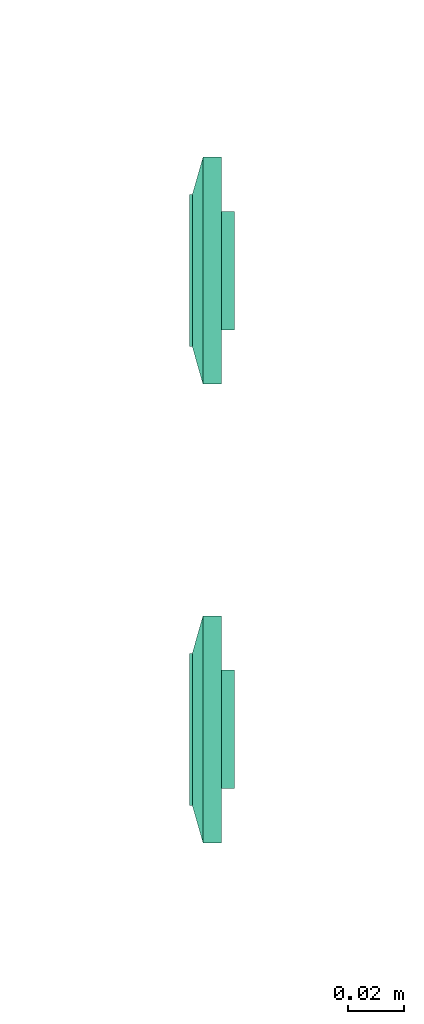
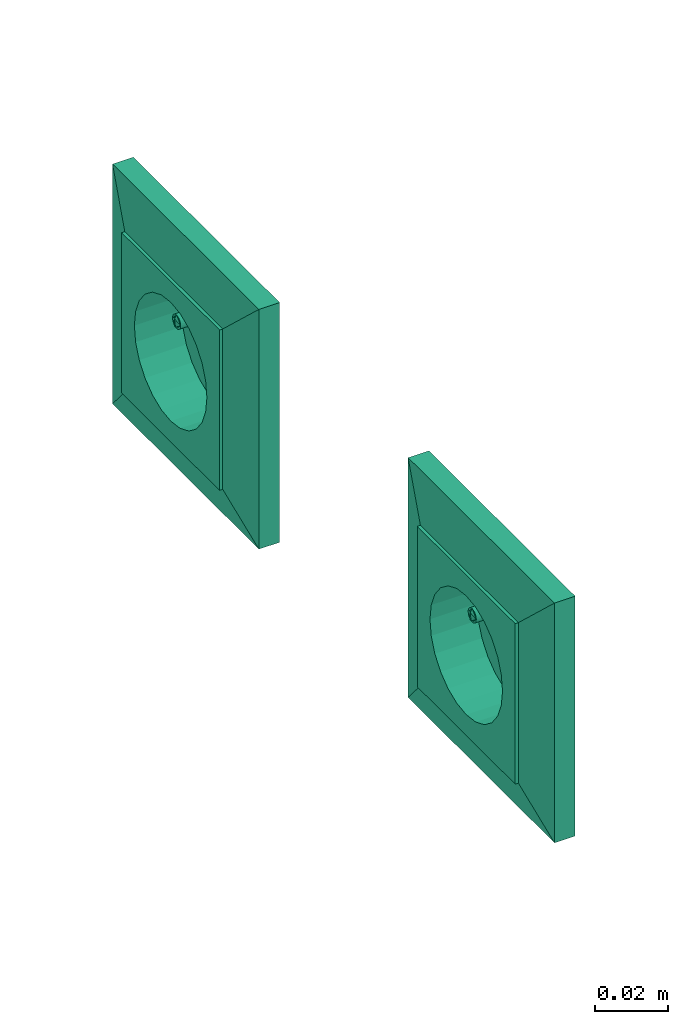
# One storey, part 38 of 146: 2 flow terminals.
"""IFC2X3 building model written with IfcOpenShell, lengths in metres."""

import ifcopenshell
import ifcopenshell.guid

model = None  # the IFC model being written
_history = None  # IfcOwnerHistory: only IFC2X3 demands one
_inside = {}  # id of a spatial element -> (the spatial element, [elements in it])
_under = {}  # id of a project, library or spatial element -> (it, [spatial elements below it])
_declared = {}  # id of a project -> (the project, [libraries it declares])
_typed = {}  # id of a type object -> (the type object, [elements of that type])
_made_of = {}  # id of a material, layer set ... -> (it, [elements and type objects made of it])


def new_model(schema):
    """Start an empty IFC model of exactly this schema.

    Asked for "IFC4X3", IfcOpenShell would pick the latest addendum, in which some entities
    have other attributes; the version numbers below select the first issue.
    IFC2X3 requires an IfcOwnerHistory on every rooted entity: one is made here for all.
    """
    global model, _history
    if schema == "IFC4X3":
        model = ifcopenshell.file(schema_version=(4, 3, 0, 0))
    else:
        model = ifcopenshell.file(schema=schema)
    _inside.clear()
    _under.clear()
    _declared.clear()
    _typed.clear()
    _made_of.clear()
    _history = None
    if model.schema == "IFC2X3":
        org = make("IfcOrganization", Name="unknown")
        user = make(
            "IfcPersonAndOrganization",
            ThePerson=make("IfcPerson", FamilyName="unknown"),
            TheOrganization=org,
        )
        app = make(
            "IfcApplication",
            ApplicationDeveloper=org,
            Version="unknown",
            ApplicationFullName="unknown",
            ApplicationIdentifier="unknown",
        )
        _history = make(
            "IfcOwnerHistory",
            OwningUser=user,
            OwningApplication=app,
            ChangeAction="ADDED",
            CreationDate=0,
        )
    return model


def make(cls, **values):
    """One entity of the class cls with the attributes given. An attribute that is None is left unset."""
    return model.create_entity(
        cls, **{name: value for name, value in values.items() if value is not None}
    )


def entity(cls, *values):
    """Any entity or typed value of the class cls, its attributes in the order of the schema. None: left unset."""
    e = model.create_entity(cls)
    for i, value in enumerate(values):
        if value is not None:
            e[i] = value
    return e


def rooted(cls, **values):
    """An entity with a GlobalId (a new one), such as an element, a storey or a relation."""
    return make(cls, GlobalId=ifcopenshell.guid.new(), OwnerHistory=_history, **values)


def si_unit(unit_type, name, prefix=None):
    """IfcSIUnit, for example si_unit("LENGTHUNIT", "METRE", prefix="MILLI")."""
    return make("IfcSIUnit", UnitType=unit_type, Prefix=prefix, Name=name)


def converted_unit(unit_type, name, factor, base, dimensions=None, offset=None):
    """IfcConversionBasedUnit, such as the inch: factor (a typed value) times the base unit."""
    return make(
        "IfcConversionBasedUnit"
        if offset is None
        else "IfcConversionBasedUnitWithOffset",
        ConversionOffset=offset,
        Dimensions=None
        if dimensions is None
        else entity("IfcDimensionalExponents", *dimensions),
        UnitType=unit_type,
        Name=name,
        ConversionFactor=make(
            "IfcMeasureWithUnit", ValueComponent=factor, UnitComponent=base
        ),
    )


def derived_unit(unit_type, elements):
    """IfcDerivedUnit: a product of units, each with its exponent."""
    return make(
        "IfcDerivedUnit",
        Elements=[
            make("IfcDerivedUnitElement", Unit=unit, Exponent=power)
            for unit, power in elements
        ],
        UnitType=unit_type,
    )


def assignment(units):
    """IfcUnitAssignment: the units of a project."""
    return None if units is None else make("IfcUnitAssignment", Units=units)


def point(xyz):
    """IfcCartesianPoint."""
    return None if xyz is None else make("IfcCartesianPoint", Coordinates=xyz)


def direction(xyz):
    """IfcDirection."""
    return None if xyz is None else make("IfcDirection", DirectionRatios=xyz)


def frame(location, z_axis=None, x_axis=None):
    """IfcAxis2Placement3D, a coordinate frame: its origin and axes. An axis left out is left unset."""
    return make(
        "IfcAxis2Placement3D",
        Location=point(location),
        Axis=direction(z_axis),
        RefDirection=direction(x_axis),
    )


def origin():
    """The frame at (0, 0, 0) with its axes left unset."""
    return frame((0.0, 0.0, 0.0))


def place(relative_to, where):
    """IfcLocalPlacement: puts the frame where relative to a parent placement (None: the world)."""
    return make(
        "IfcLocalPlacement", PlacementRelTo=relative_to, RelativePlacement=where
    )


def context(
    kind, dimensions, precision=None, world=None, true_north=None, identifier=None
):
    """IfcGeometricRepresentationContext, for example the 3D "Model" context."""
    return make(
        "IfcGeometricRepresentationContext",
        ContextIdentifier=identifier,
        ContextType=kind,
        CoordinateSpaceDimension=dimensions,
        Precision=precision,
        WorldCoordinateSystem=world,
        TrueNorth=true_north,
    )


def subcontext(parent, identifier, kind, view, scale=None):
    """IfcGeometricRepresentationSubContext, for example "Body" below "Model"."""
    return make(
        "IfcGeometricRepresentationSubContext",
        ContextIdentifier=identifier,
        ContextType=kind,
        ParentContext=parent,
        TargetScale=scale,
        TargetView=view,
    )


def project(units=None, contexts=None):
    """IfcProject with its units and contexts."""
    return rooted(
        "IfcProject",
        Name="project",
        RepresentationContexts=contexts,
        UnitsInContext=assignment(units),
    )


def spatial(cls, under=None, at=None, **own):
    """A site, building, storey or space (cls), placed at a placement, below another one or the project."""
    s = rooted(cls, ObjectPlacement=at, **own)
    if under is not None:
        _under.setdefault(under.id(), (under, []))[1].append(s)
    return s


def faces_of(points, faces, orient=None, outer=None):
    """IfcFace entities. A face is a list of loops; a loop is a list of indices into points, from 0.

    orient and outer hold one flag for each loop. By default every Orientation is true, the
    first loop of a face is its IfcFaceOuterBound and the others are IfcFaceBound.
    """
    made = []
    for i, loops in enumerate(faces):
        bounds = []
        for j, loop in enumerate(loops):
            is_outer = j == 0 if outer is None else outer[i][j]
            bounds.append(
                make(
                    "IfcFaceOuterBound" if is_outer else "IfcFaceBound",
                    Bound=make("IfcPolyLoop", Polygon=[points[k] for k in loop]),
                    Orientation=True if orient is None else orient[i][j],
                )
            )
        made.append(make("IfcFace", Bounds=bounds))
    return made


def face_set(faces, orient=None, outer=None):
    """The faces of one IfcConnectedFaceSet. surface_model builds it on its shared points."""
    return ("IfcConnectedFaceSet", faces, orient, outer)


def surface_model(cls, points, shells):
    """IfcFaceBasedSurfaceModel or IfcShellBasedSurfaceModel (cls): surfaces that need not close."""
    shared = [point(p) for p in points]
    made = [make(c, CfsFaces=faces_of(shared, fs, o, b)) for c, fs, o, b in shells]
    if cls == "IfcFaceBasedSurfaceModel":
        return make(cls, FbsmFaces=made)
    return make(cls, SbsmBoundary=made)


def shape(context_of_items, identifier, shape_type, items):
    """IfcShapeRepresentation: the items that make up one representation, for example the "Body"."""
    return make(
        "IfcShapeRepresentation",
        ContextOfItems=context_of_items,
        RepresentationIdentifier=identifier,
        RepresentationType=shape_type,
        Items=items,
    )


def source(mapping_origin, context_of_items, identifier, shape_type, items):
    """IfcRepresentationMap: a shape defined once, which mapped items show again and again."""
    return make(
        "IfcRepresentationMap",
        MappingOrigin=mapping_origin,
        MappedRepresentation=shape(context_of_items, identifier, shape_type, items),
    )


def transform(
    local_origin,
    x_axis=None,
    y_axis=None,
    z_axis=None,
    scale=None,
    scale2=None,
    scale3=None,
    uniform=True,
):
    """IfcCartesianTransformationOperator3D, or its non-uniform kind. x_axis, y_axis, z_axis: its Axis1, 2, 3."""
    if uniform:
        return make(
            "IfcCartesianTransformationOperator3D",
            Axis1=direction(x_axis),
            Axis2=direction(y_axis),
            LocalOrigin=point(local_origin),
            Scale=scale,
            Axis3=direction(z_axis),
        )
    return make(
        "IfcCartesianTransformationOperator3DnonUniform",
        Axis1=direction(x_axis),
        Axis2=direction(y_axis),
        LocalOrigin=point(local_origin),
        Scale=scale,
        Axis3=direction(z_axis),
        Scale2=scale2,
        Scale3=scale3,
    )


def mapped(mapping_source, mapping_target):
    """IfcMappedItem: shows the shape of a source again, moved by a transform."""
    return make(
        "IfcMappedItem", MappingSource=mapping_source, MappingTarget=mapping_target
    )


def made_of(thing, what):
    """Note that an element or type object is made of a material, layer set ...; save() writes the relation."""
    if what is not None:
        _made_of.setdefault(what.id(), (what, []))[1].append(thing)
    return thing


def type_object(cls, material=None, **own):
    """A type object (cls), such as IfcWallType, which elements share."""
    return made_of(rooted(cls, **own), material)


def type_shapes(of_type, sources):
    """Give a type object the sources (RepresentationMaps) that its elements show as mapped items."""
    of_type.RepresentationMaps = sources


def element(
    cls,
    number,
    at=None,
    inside=None,
    cuts=None,
    type_object=None,
    material=None,
    context=None,
    identifier="Body",
    shape_type=None,
    held_by="IfcProductDefinitionShape",
    body=None,
    shapes=None,
    **own,
):
    """One element of the class cls, such as IfcWall. Its Tag is "e" and its number.

    at: its placement. inside: the storey or other place that contains it. cuts: it is an
    opening in that element (IfcRelVoidsElement). A single representation is given by context,
    identifier, shape_type and body (its items); several are given by shapes. held_by: the class
    of the entity that holds the representations. save() writes the other relations.
    """
    e = rooted(cls, Tag="e%d" % number, ObjectPlacement=at, **own)
    if body is not None:
        shapes = [shape(context, identifier, shape_type, body)]
    if shapes is not None:
        e.Representation = make(held_by, Representations=shapes)
    if inside is not None:
        _inside.setdefault(inside.id(), (inside, []))[1].append(e)
    if cuts is not None:
        rooted(
            "IfcRelVoidsElement", RelatingBuildingElement=cuts, RelatedOpeningElement=e
        )
    if type_object is not None:
        _typed.setdefault(type_object.id(), (type_object, []))[1].append(e)
    return made_of(e, material)


def aggregate(whole, parts):
    """IfcRelAggregates: a whole, such as a stair, and the parts it consists of."""
    return rooted("IfcRelAggregates", RelatingObject=whole, RelatedObjects=parts)


def save(model, path):
    """Write the relations noted so far, then the file.

    IfcRelAggregates (storeys below a building ...), IfcRelContainedInSpatialStructure (elements
    in a storey), IfcRelDefinesByType, IfcRelAssociatesMaterial and IfcRelDeclares: one each for
    every whole, place, type object, material and project.
    """
    for whole, parts in _under.values():
        aggregate(whole, parts)
    for where, things in _inside.values():
        rooted(
            "IfcRelContainedInSpatialStructure",
            RelatedElements=things,
            RelatingStructure=where,
        )
    for kind, things in _typed.values():
        rooted("IfcRelDefinesByType", RelatedObjects=things, RelatingType=kind)
    for what, things in _made_of.values():
        rooted("IfcRelAssociatesMaterial", RelatedObjects=things, RelatingMaterial=what)
    for by, libraries in _declared.values():
        rooted("IfcRelDeclares", RelatingContext=by, RelatedDefinitions=libraries)
    model.write(path)


model = new_model("IFC2X3")

# Units and contexts
model_context = context("Model", 3, precision=1e-05, world=origin(), true_north=direction((6.12303176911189e-17, 1.0)))
body_context = subcontext(model_context, "Body", "Model", "MODEL_VIEW")
ifc_project = project(units=[si_unit("LENGTHUNIT", "METRE"), si_unit("AREAUNIT", "SQUARE_METRE"), si_unit("VOLUMEUNIT", "CUBIC_METRE"), converted_unit("PLANEANGLEUNIT", "DEGREE", entity("IfcRatioMeasure", 0.0174532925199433), si_unit("PLANEANGLEUNIT", "RADIAN"), dimensions=[0, 0, 0, 0, 0, 0, 0]), si_unit("MASSUNIT", "GRAM", prefix="KILO"), derived_unit("MASSDENSITYUNIT", [(si_unit("MASSUNIT", "GRAM", prefix="KILO"), 1), (si_unit("LENGTHUNIT", "METRE"), -3)]), si_unit("TIMEUNIT", "SECOND"), si_unit("FREQUENCYUNIT", "HERTZ"), si_unit("THERMODYNAMICTEMPERATUREUNIT", "DEGREE_CELSIUS"), derived_unit("THERMALTRANSMITTANCEUNIT", [(si_unit("MASSUNIT", "GRAM", prefix="KILO"), 1), (si_unit("THERMODYNAMICTEMPERATUREUNIT", "KELVIN"), -1), (si_unit("TIMEUNIT", "SECOND"), -3)]), derived_unit("VOLUMETRICFLOWRATEUNIT", [(si_unit("LENGTHUNIT", "METRE"), 3), (si_unit("TIMEUNIT", "SECOND"), -1)]), si_unit("ELECTRICCURRENTUNIT", "AMPERE"), si_unit("ELECTRICVOLTAGEUNIT", "VOLT"), si_unit("POWERUNIT", "WATT"), si_unit("FORCEUNIT", "NEWTON"), si_unit("ILLUMINANCEUNIT", "LUX"), si_unit("LUMINOUSFLUXUNIT", "LUMEN"), si_unit("LUMINOUSINTENSITYUNIT", "CANDELA"), derived_unit("USERDEFINED", [(si_unit("MASSUNIT", "GRAM", prefix="KILO"), -1), (si_unit("LENGTHUNIT", "METRE"), -2), (si_unit("TIMEUNIT", "SECOND"), 3), (si_unit("LUMINOUSFLUXUNIT", "LUMEN"), 1)]), derived_unit("LINEARVELOCITYUNIT", [(si_unit("LENGTHUNIT", "METRE"), 1), (si_unit("TIMEUNIT", "SECOND"), -1)]), si_unit("PRESSUREUNIT", "PASCAL"), derived_unit("USERDEFINED", [(si_unit("LENGTHUNIT", "METRE"), -2), (si_unit("MASSUNIT", "GRAM", prefix="KILO"), 1), (si_unit("TIMEUNIT", "SECOND"), -2)])], contexts=[model_context])

# Site, building, storey
site_placement = place(None, origin())
site = spatial("IfcSite", under=ifc_project, at=site_placement, Name="Default", CompositionType="ELEMENT")
building_placement = place(site_placement, origin())
building = spatial("IfcBuilding", under=site, at=building_placement, CompositionType="ELEMENT")
storey_placement = place(building_placement, origin())
storey = spatial("IfcBuildingStorey", under=building, at=storey_placement, Name="S01", CompositionType="ELEMENT", Elevation=0.0)

# Flow terminals
light_fixture_type = type_object("IfcLightFixtureType", Name="PC IP20", PredefinedType="NOTDEFINED")
shared_shape = source(origin(), body_context, "Body", "SurfaceModel", [
    surface_model("IfcFaceBasedSurfaceModel", [(-0.00225000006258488, 0.0127499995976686, 0.00949633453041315), (0.0, 0.0104999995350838, 0.00949633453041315), (0.0, 0.0115376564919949, 0.0101656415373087), (0.0, 0.0139623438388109, 0.0101656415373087), (0.0, 0.0144589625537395, 0.00984531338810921), (0.0, 0.0121178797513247, 0.0102778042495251), (0.0, 0.0133821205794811, 0.0102778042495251), (0.0, 0.0127499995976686, 0.010399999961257), (0.0, 0.0149999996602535, 0.00949633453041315), (0.00225000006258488, 0.0127499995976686, 0.00949633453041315), (0.0, 0.0110410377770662, 0.00984531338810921), (0.0, 0.0127499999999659, 0.00949633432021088), (0.00225000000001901, 0.0127499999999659, 0.00949633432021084), (0.00217333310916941, 0.0121676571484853, 0.00949633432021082), (0.00194855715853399, 0.0116249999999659, 0.00949633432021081), (0.00159099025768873, 0.0111590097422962, 0.00949633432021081), (0.001125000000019, 0.010801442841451, 0.00949633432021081), (0.00058234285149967, 0.0105766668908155, 0.00949633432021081), (0.0, 0.0104999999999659, 0.00949633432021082), (-0.000582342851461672, 0.0105766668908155, 0.00949633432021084), (-0.001124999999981, 0.010801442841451, 0.00949633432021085), (-0.00159099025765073, 0.0111590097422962, 0.00949633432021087), (-0.00194855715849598, 0.011624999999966, 0.00949633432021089), (-0.0021733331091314, 0.0121676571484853, 0.00949633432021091), (-0.00224999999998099, 0.012749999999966, 0.00949633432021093), (-0.00217333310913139, 0.0133323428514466, 0.00949633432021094), (-0.00194855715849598, 0.013874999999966, 0.00949633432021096), (-0.00159099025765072, 0.0143409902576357, 0.00949633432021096), (-0.00112499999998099, 0.0146985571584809, 0.00949633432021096), (-0.00058234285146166, 0.0149233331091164, 0.00949633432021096), (0.0, 0.0149999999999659, 0.00949633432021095), (0.000582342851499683, 0.0149233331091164, 0.00949633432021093), (0.00112500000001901, 0.0146985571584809, 0.00949633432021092), (0.00159099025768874, 0.0143409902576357, 0.00949633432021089), (0.001948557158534, 0.0138749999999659, 0.00949633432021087), (0.00217333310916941, 0.0133323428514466, 0.00949633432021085), (0.00225000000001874, 0.0127499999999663, -0.00360000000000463), (0.00217333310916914, 0.0121676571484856, -0.00360000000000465), (0.00194855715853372, 0.0116249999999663, -0.00360000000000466), (0.00159099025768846, 0.0111590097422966, -0.00360000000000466), (0.00112500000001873, 0.0108014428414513, -0.00360000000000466), (0.000582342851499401, 0.0105766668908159, -0.00360000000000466), (0.0, 0.0104999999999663, -0.00360000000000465), (-0.000582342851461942, 0.0105766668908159, -0.00360000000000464), (-0.00112499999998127, 0.0108014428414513, -0.00360000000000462), (-0.001590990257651, 0.0111590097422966, -0.0036000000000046), (-0.00194855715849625, 0.0116249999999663, -0.00360000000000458), (-0.00217333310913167, 0.0121676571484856, -0.00360000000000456), (-0.00224999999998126, 0.0127499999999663, -0.00360000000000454), (-0.00217333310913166, 0.013332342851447, -0.00360000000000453), (-0.00194855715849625, 0.0138749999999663, -0.00360000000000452), (-0.00159099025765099, 0.014340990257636, -0.00360000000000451), (-0.00112499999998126, 0.0146985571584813, -0.00360000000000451), (-0.000582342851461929, 0.0149233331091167, -0.00360000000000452), (0.0, 0.0149999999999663, -0.00360000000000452), (0.000582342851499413, 0.0149233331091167, -0.00360000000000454), (0.00112500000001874, 0.0146985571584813, -0.00360000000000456), (0.00159099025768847, 0.014340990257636, -0.00360000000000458), (0.00194855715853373, 0.0138749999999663, -0.0036000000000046), (0.00217333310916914, 0.013332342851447, -0.00360000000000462), (0.0270000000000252, 0.026999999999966, 0.0113999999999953), (-0.0269999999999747, 0.026999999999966, 0.0113999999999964), (-0.0269999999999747, -0.0270000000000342, 0.0113999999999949), (0.0270000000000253, -0.0270000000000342, 0.0113999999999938), (-0.0199999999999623, 0.0, 0.0113999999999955), (-0.0193185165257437, -0.00517638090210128, 0.0113999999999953), (-0.0173205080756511, -0.0100000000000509, 0.0113999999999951), (-0.0141421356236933, -0.0141421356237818, 0.011399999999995), (-0.00999999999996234, -0.0173205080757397, 0.0113999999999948), (-0.00517638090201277, -0.0193185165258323, 0.0113999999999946), (0.0, -0.0200000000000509, 0.0113999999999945), (0.00517638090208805, -0.0193185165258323, 0.0113999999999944), (0.0100000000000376, -0.0173205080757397, 0.0113999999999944), (0.0141421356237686, -0.0141421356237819, 0.0113999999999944), (0.0173205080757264, -0.010000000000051, 0.0113999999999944), (0.0193185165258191, -0.00517638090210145, 0.0113999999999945), (0.0200000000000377, 0.0, 0.0113999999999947), (0.0193185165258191, 0.00517638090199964, 0.0113999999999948), (0.0173205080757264, 0.0099999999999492, 0.011399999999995), (0.0141421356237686, 0.0141421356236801, 0.0113999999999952), (0.0100000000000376, 0.0173205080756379, 0.0113999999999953), (0.00517638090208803, 0.0193185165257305, 0.0113999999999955), (0.0, 0.0199999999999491, 0.0113999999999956), (-0.00517638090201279, 0.0193185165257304, 0.0113999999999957), (-0.00999999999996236, 0.0173205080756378, 0.0113999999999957), (-0.0141421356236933, 0.01414213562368, 0.0113999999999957), (-0.0173205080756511, 0.00999999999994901, 0.0113999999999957), (-0.0193185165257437, 0.00517638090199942, 0.0113999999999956), (0.0270000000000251, 0.0269999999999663, 0.00199999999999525), (0.0270000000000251, -0.0270000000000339, 0.00199999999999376), (-0.0269999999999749, -0.0270000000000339, 0.00199999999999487), (-0.0269999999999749, 0.0269999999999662, 0.00199999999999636), (0.0210000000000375, 0.0, 0.00199999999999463), (0.0202844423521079, -0.00543519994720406, 0.00199999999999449), (0.0181865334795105, -0.0105000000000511, 0.0019999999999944), (0.0148492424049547, -0.0148492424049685, 0.00199999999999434), (0.0105000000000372, -0.0181865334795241, 0.00199999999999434), (0.0054351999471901, -0.0202844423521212, 0.00199999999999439), (0.0, -0.0210000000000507, 0.00199999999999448), (-0.00543519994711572, -0.020284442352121, 0.00199999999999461), (-0.0104999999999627, -0.0181865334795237, 0.00199999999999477), (-0.0148492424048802, -0.014849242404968, 0.00199999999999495), (-0.0181865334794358, -0.0105000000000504, 0.00199999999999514), (-0.020284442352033, -0.00543519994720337, 0.00199999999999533), (-0.0209999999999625, 0.0, 0.00199999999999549), (-0.0202844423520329, 0.0054351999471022, 0.00199999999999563), (-0.0181865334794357, 0.0104999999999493, 0.00199999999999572), (-0.01484924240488, 0.0148492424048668, 0.00199999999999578), (-0.0104999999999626, 0.0181865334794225, 0.00199999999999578), (-0.00543519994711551, 0.0202844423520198, 0.00199999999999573), (0.0, 0.0209999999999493, 0.00199999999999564), (0.00543519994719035, 0.0202844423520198, 0.00199999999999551), (0.0105000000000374, 0.0181865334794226, 0.00199999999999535), (0.0148492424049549, 0.0148492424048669, 0.00199999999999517), (0.0181865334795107, 0.0104999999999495, 0.00199999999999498), (0.0202844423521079, 0.00543519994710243, 0.00199999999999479), (0.0200000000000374, 0.0, -0.00360000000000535), (0.0193185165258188, -0.00517638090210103, -0.00360000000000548), (0.0173205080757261, -0.0100000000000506, -0.00360000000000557), (0.0141421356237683, -0.0141421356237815, -0.00360000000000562), (0.0100000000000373, -0.0173205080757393, -0.00360000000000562), (0.00517638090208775, -0.0193185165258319, -0.00360000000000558), (0.0, -0.0200000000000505, -0.00360000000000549), (-0.00517638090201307, -0.0193185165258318, -0.00360000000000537), (-0.00999999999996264, -0.0173205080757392, -0.00360000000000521), (-0.0141421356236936, -0.0141421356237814, -0.00360000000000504), (-0.0173205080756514, -0.0100000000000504, -0.00360000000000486), (-0.019318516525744, -0.00517638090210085, -0.00360000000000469), (-0.0199999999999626, 0.0, -0.00360000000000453), (-0.0193185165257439, 0.00517638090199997, -0.0036000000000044), (-0.0173205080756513, 0.00999999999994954, -0.00360000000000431), (-0.0141421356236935, 0.0141421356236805, -0.00360000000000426), (-0.00999999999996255, 0.0173205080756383, -0.00360000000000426), (-0.00517638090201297, 0.0193185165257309, -0.0036000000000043), (0.0, 0.0199999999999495, -0.00360000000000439), (0.00517638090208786, 0.0193185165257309, -0.00360000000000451), (0.0100000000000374, 0.0173205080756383, -0.00360000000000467), (0.0141421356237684, 0.0141421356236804, -0.00360000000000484), (0.0173205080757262, 0.0099999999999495, -0.00360000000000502), (0.0193185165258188, 0.00517638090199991, -0.00360000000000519), (-0.0123499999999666, 0.0, -0.00360000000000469), (-0.0122562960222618, -0.000711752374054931, -0.00360000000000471), (-0.0119815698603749, -0.00137500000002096, -0.00360000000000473), (-0.0115445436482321, -0.00194454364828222, -0.00360000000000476), (-0.0109749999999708, -0.00238156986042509, -0.00360000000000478), (-0.0103117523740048, -0.00265629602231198, -0.0036000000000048), (-0.00959999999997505, -0.00275000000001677, -0.00360000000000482), (-0.0088882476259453, -0.00265629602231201, -0.00360000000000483), (-0.00822499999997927, -0.00238156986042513, -0.00360000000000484), (-0.00765545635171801, -0.00194454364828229, -0.00360000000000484), (-0.00721843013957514, -0.00137500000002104, -0.00360000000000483), (-0.00694370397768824, -0.000711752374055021, -0.00360000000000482), (-0.00684999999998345, 0.0, -0.0036000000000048), (-0.00694370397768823, 0.000711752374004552, -0.00360000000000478), (-0.00721843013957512, 0.00137499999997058, -0.00360000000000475), (-0.00765545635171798, 0.00194454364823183, -0.00360000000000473), (-0.00822499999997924, 0.00238156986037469, -0.0036000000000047), (-0.00888824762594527, 0.00265629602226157, -0.00360000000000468), (-0.00959999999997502, 0.00274999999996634, -0.00360000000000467), (-0.0103117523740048, 0.00265629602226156, -0.00360000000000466), (-0.0109749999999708, 0.00238156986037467, -0.00360000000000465), (-0.011544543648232, 0.00194454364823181, -0.00360000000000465), (-0.0119815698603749, 0.00137499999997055, -0.00360000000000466), (-0.0122562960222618, 0.000711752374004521, -0.00360000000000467), (0.00685000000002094, 0.0, -0.00360000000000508), (0.0069437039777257, -0.00071175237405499, -0.0036000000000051), (0.00721843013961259, -0.00137500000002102, -0.00360000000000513), (0.00765545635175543, -0.00194454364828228, -0.00360000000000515), (0.00822500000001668, -0.00238156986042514, -0.00360000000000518), (0.00888824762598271, -0.00265629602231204, -0.0036000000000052), (0.00960000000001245, -0.00275000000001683, -0.00360000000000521), (0.0103117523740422, -0.00265629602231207, -0.00360000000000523), (0.0109750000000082, -0.00238156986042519, -0.00360000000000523), (0.0115445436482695, -0.00194454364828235, -0.00360000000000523), (0.0119815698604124, -0.0013750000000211, -0.00360000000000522), (0.0122562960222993, -0.00071175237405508, -0.00360000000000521), (0.012350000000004, 0.0, -0.00360000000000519), (0.0122562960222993, 0.000711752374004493, -0.00360000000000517), (0.0119815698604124, 0.00137499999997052, -0.00360000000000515), (0.0115445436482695, 0.00194454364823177, -0.00360000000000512), (0.0109750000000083, 0.00238156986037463, -0.0036000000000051), (0.0103117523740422, 0.00265629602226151, -0.00360000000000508), (0.00960000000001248, 0.00274999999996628, -0.00360000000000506), (0.00888824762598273, 0.0026562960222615, -0.00360000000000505), (0.0082250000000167, 0.00238156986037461, -0.00360000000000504), (0.00765545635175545, 0.00194454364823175, -0.00360000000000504), (0.0072184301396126, 0.00137499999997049, -0.00360000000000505), (0.00694370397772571, 0.000711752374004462, -0.00360000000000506), (0.0210000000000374, 0.0, -0.00460000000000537), (0.0202844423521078, -0.00543519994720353, -0.00460000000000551), (0.0181865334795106, -0.0105000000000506, -0.0046000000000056), (0.0148492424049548, -0.0148492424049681, -0.00460000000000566), (0.0105000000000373, -0.0181865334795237, -0.00460000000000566), (0.00543519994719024, -0.0202844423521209, -0.00460000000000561), (0.0, -0.0210000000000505, -0.00460000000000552), (-0.00543519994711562, -0.0202844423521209, -0.00460000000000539), (-0.0104999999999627, -0.0181865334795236, -0.00460000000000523), (-0.0148492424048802, -0.0148492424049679, -0.00460000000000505), (-0.0181865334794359, -0.0105000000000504, -0.00460000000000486), (-0.0202844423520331, -0.00543519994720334, -0.00460000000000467), (-0.0209999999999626, 0.0, -0.00460000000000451), (-0.020284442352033, 0.00543519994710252, -0.00460000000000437), (-0.0181865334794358, 0.0104999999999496, -0.00460000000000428), (-0.0148492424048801, 0.0148492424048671, -0.00460000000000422), (-0.0104999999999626, 0.0181865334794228, -0.00460000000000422), (-0.00543519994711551, 0.02028444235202, -0.00460000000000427), (0.0, 0.0209999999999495, -0.00460000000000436), (0.00543519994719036, 0.02028444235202, -0.00460000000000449), (0.0105000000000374, 0.0181865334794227, -0.00460000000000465), (0.0148492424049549, 0.014849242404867, -0.00460000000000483), (0.0181865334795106, 0.0104999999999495, -0.00460000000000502), (0.0202844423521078, 0.00543519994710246, -0.00460000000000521), (-0.00684999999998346, 0.0, -0.0046000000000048), (-0.00694370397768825, 0.000711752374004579, -0.00460000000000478), (-0.00721843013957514, 0.00137499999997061, -0.00460000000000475), (-0.007655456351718, 0.00194454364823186, -0.00460000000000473), (-0.00822499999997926, 0.00238156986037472, -0.0046000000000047), (-0.00888824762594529, 0.0026562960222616, -0.00460000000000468), (-0.00959999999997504, 0.00274999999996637, -0.00460000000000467), (-0.0103117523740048, 0.00265629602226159, -0.00460000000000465), (-0.0109749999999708, 0.0023815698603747, -0.00460000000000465), (-0.0115445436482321, 0.00194454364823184, -0.00460000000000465), (-0.0119815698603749, 0.00137499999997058, -0.00460000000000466), (-0.0122562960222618, 0.000711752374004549, -0.00460000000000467), (-0.0123499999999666, 0.0, -0.00460000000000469), (-0.0122562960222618, -0.000711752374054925, -0.00460000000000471), (-0.0119815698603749, -0.00137500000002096, -0.00460000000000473), (-0.0115445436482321, -0.00194454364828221, -0.00460000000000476), (-0.0109749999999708, -0.00238156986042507, -0.00460000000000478), (-0.0103117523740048, -0.00265629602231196, -0.0046000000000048), (-0.00959999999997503, -0.00275000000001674, -0.00460000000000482), (-0.00888824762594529, -0.00265629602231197, -0.00460000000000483), (-0.00822499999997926, -0.00238156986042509, -0.00460000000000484), (-0.007655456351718, -0.00194454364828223, -0.00460000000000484), (-0.00721843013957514, -0.00137500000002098, -0.00460000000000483), (-0.00694370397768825, -0.000711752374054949, -0.00460000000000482), (0.012350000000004, 0.0, -0.00460000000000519), (0.0122562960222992, 0.000711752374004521, -0.00460000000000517), (0.0119815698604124, 0.00137499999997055, -0.00460000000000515), (0.0115445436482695, 0.0019445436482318, -0.00460000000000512), (0.0109750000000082, 0.00238156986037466, -0.0046000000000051), (0.0103117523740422, 0.00265629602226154, -0.00460000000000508), (0.00960000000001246, 0.00274999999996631, -0.00460000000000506), (0.00888824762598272, 0.00265629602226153, -0.00460000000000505), (0.00822500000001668, 0.00238156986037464, -0.00460000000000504), (0.00765545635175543, 0.00194454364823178, -0.00460000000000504), (0.00721843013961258, 0.00137499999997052, -0.00460000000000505), (0.00694370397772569, 0.00071175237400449, -0.00460000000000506), (0.00685000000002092, 0.0, -0.00460000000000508), (0.00694370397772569, -0.000711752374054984, -0.0046000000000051), (0.00721843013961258, -0.00137500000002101, -0.00460000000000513), (0.00765545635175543, -0.00194454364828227, -0.00460000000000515), (0.00822500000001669, -0.00238156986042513, -0.00460000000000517), (0.00888824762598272, -0.00265629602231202, -0.0046000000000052), (0.00960000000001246, -0.0027500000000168, -0.00460000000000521), (0.0103117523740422, -0.00265629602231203, -0.00460000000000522), (0.0109750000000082, -0.00238156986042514, -0.00460000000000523), (0.0115445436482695, -0.00194454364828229, -0.00460000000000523), (0.0119815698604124, -0.00137500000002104, -0.00460000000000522), (0.0122562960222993, -0.000711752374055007, -0.00460000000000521), (0.040350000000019, 0.0403499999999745, 0.00659999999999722), (0.040350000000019, -0.0403500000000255, 0.00659999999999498), (-0.0403499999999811, -0.0403500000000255, 0.00659999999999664), (-0.0403499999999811, 0.0403499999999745, 0.00659999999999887), (0.027000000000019, 0.0269999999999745, 0.00659999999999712), (-0.0269999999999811, 0.0269999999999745, 0.00659999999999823), (-0.026999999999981, -0.0270000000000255, 0.00659999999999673), (0.027000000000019, -0.0270000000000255, 0.00659999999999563), (0.027000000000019, 0.0269999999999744, 0.0103999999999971), (-0.026999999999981, 0.0269999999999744, 0.0103999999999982), (-0.026999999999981, -0.0270000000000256, 0.0103999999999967), (0.027000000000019, -0.0270000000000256, 0.0103999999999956), (0.040350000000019, 0.0403499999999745, 0.00659999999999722), (0.040350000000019, -0.0403500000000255, 0.00659999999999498), (-0.0403499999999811, -0.0403500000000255, 0.00659999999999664), (-0.0403499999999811, 0.0403499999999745, 0.00659999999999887), (-0.0269999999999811, 0.0269999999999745, 0.00659999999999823), (-0.0269999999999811, -0.0270000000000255, 0.00659999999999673), (0.0270000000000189, -0.0270000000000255, 0.00659999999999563), (0.0270000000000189, 0.0269999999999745, 0.00659999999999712), (0.0403500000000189, 0.0403499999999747, 0.0), (0.0403500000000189, -0.0403500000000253, 0.0), (-0.0403499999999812, -0.0403500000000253, 0.0), (-0.0403499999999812, 0.0403499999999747, 0.0), (0.0270000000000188, 0.0269999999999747, 0.0), (-0.0269999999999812, 0.0269999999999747, 0.0), (-0.0269999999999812, -0.0270000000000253, 0.0), (0.0270000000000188, -0.0270000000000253, 0.0)], [face_set([[[0, 1, 2]], [[3, 4, 2, 5]], [[6, 3, 5, 7]], [[2, 4, 0]], [[4, 8, 0]], [[3, 9, 8]], [[1, 9, 10]], [[2, 3, 6, 7]], [[3, 10, 9]], [[2, 10, 3]], [[11, 1, 0, 8]], [[11, 8, 9, 1]]]), face_set([[[12, 13, 14, 15, 16, 17, 18, 19, 20, 21, 22, 23, 24, 25, 26, 27, 28, 29, 30, 31, 32, 33, 34, 35]], [[36, 37, 38, 39, 40, 41, 42, 43, 44, 45, 46, 47, 48, 49, 50, 51, 52, 53, 54, 55, 56, 57, 58, 59]], [[48, 47, 23, 24]], [[47, 46, 22, 23]], [[45, 44, 20, 21]], [[46, 45, 21, 22]], [[44, 43, 19, 20]], [[18, 19, 43, 42]], [[42, 41, 17, 18]], [[41, 40, 16, 17]], [[39, 38, 14, 15]], [[40, 39, 15, 16]], [[38, 37, 13, 14]], [[12, 13, 37, 36]], [[36, 59, 35, 12]], [[59, 58, 34, 35]], [[57, 56, 32, 33]], [[58, 57, 33, 34]], [[56, 55, 31, 32]], [[30, 31, 55, 54]], [[54, 53, 29, 30]], [[53, 52, 28, 29]], [[51, 50, 26, 27]], [[52, 51, 27, 28]], [[50, 49, 25, 26]], [[24, 25, 49, 48]]]), face_set([[[60, 61, 62, 63], [64, 65, 66, 67, 68, 69, 70, 71, 72, 73, 74, 75, 76, 77, 78, 79, 80, 81, 82, 83, 84, 85, 86, 87]], [[88, 89, 90, 91], [92, 93, 94, 95, 96, 97, 98, 99, 100, 101, 102, 103, 104, 105, 106, 107, 108, 109, 110, 111, 112, 113, 114, 115]], [[61, 60, 88, 91]], [[62, 61, 91, 90]], [[63, 62, 90, 89]], [[60, 63, 89, 88]], [[116, 117, 118, 119, 120, 121, 122, 123, 124, 125, 126, 127, 128, 129, 130, 131, 132, 133, 134, 135, 136, 137, 138, 139], [140, 141, 142, 143, 144, 145, 146, 147, 148, 149, 150, 151, 152, 153, 154, 155, 156, 157, 158, 159, 160, 161, 162, 163], [164, 165, 166, 167, 168, 169, 170, 171, 172, 173, 174, 175, 176, 177, 178, 179, 180, 181, 182, 183, 184, 185, 186, 187]], [[64, 128, 127, 65]], [[65, 127, 126, 66]], [[67, 125, 124, 68]], [[66, 126, 125, 67]], [[68, 124, 123, 69]], [[122, 70, 69, 123]], [[70, 122, 121, 71]], [[71, 121, 120, 72]], [[73, 119, 118, 74]], [[72, 120, 119, 73]], [[74, 118, 117, 75]], [[116, 76, 75, 117]], [[76, 116, 139, 77]], [[77, 139, 138, 78]], [[79, 137, 136, 80]], [[78, 138, 137, 79]], [[80, 136, 135, 81]], [[134, 82, 81, 135]], [[82, 134, 133, 83]], [[83, 133, 132, 84]], [[84, 132, 131, 85]], [[85, 131, 130, 86]], [[130, 129, 87, 86]], [[64, 87, 129, 128]], [[188, 189, 190, 191, 192, 193, 194, 195, 196, 197, 198, 199, 200, 201, 202, 203, 204, 205, 206, 207, 208, 209, 210, 211], [212, 213, 214, 215, 216, 217, 218, 219, 220, 221, 222, 223, 224, 225, 226, 227, 228, 229, 230, 231, 232, 233, 234, 235], [236, 237, 238, 239, 240, 241, 242, 243, 244, 245, 246, 247, 248, 249, 250, 251, 252, 253, 254, 255, 256, 257, 258, 259]], [[200, 199, 103, 104]], [[199, 198, 102, 103]], [[197, 196, 100, 101]], [[198, 197, 101, 102]], [[196, 195, 99, 100]], [[98, 99, 195, 194]], [[194, 193, 97, 98]], [[193, 192, 96, 97]], [[191, 190, 94, 95]], [[192, 191, 95, 96]], [[190, 189, 93, 94]], [[92, 93, 189, 188]], [[188, 211, 115, 92]], [[211, 210, 114, 115]], [[209, 208, 112, 113]], [[210, 209, 113, 114]], [[208, 207, 111, 112]], [[110, 111, 207, 206]], [[206, 205, 109, 110]], [[205, 204, 108, 109]], [[203, 202, 106, 107]], [[204, 203, 107, 108]], [[202, 201, 105, 106]], [[104, 105, 201, 200]], [[141, 225, 226, 142]], [[140, 224, 225, 141]], [[144, 228, 229, 145]], [[143, 227, 228, 144]], [[142, 226, 227, 143]], [[230, 146, 145, 229]], [[149, 233, 232, 148]], [[148, 232, 231, 147]], [[152, 212, 235, 151]], [[151, 235, 234, 150]], [[150, 234, 233, 149]], [[146, 230, 231, 147]], [[154, 214, 213, 153]], [[153, 213, 212, 152]], [[157, 217, 216, 156]], [[156, 216, 215, 155]], [[155, 215, 214, 154]], [[218, 158, 157, 217]], [[160, 220, 221, 161]], [[159, 219, 220, 160]], [[163, 223, 224, 140]], [[162, 222, 223, 163]], [[161, 221, 222, 162]], [[158, 218, 219, 159]], [[166, 250, 249, 165]], [[165, 249, 248, 164]], [[169, 253, 252, 168]], [[168, 252, 251, 167]], [[167, 251, 250, 166]], [[254, 170, 169, 253]], [[172, 256, 257, 173]], [[171, 255, 256, 172]], [[175, 259, 236, 176]], [[174, 258, 259, 175]], [[173, 257, 258, 174]], [[170, 254, 255, 171]], [[177, 237, 238, 178]], [[176, 236, 237, 177]], [[180, 240, 241, 181]], [[179, 239, 240, 180]], [[178, 238, 239, 179]], [[242, 182, 181, 241]], [[185, 245, 244, 184]], [[184, 244, 243, 183]], [[164, 248, 247, 187]], [[187, 247, 246, 186]], [[186, 246, 245, 185]], [[182, 242, 243, 183]]]), face_set([[[260, 261, 262, 263], [264, 265, 266, 267]], [[260, 268, 269, 263]], [[263, 269, 270, 262]], [[262, 270, 271, 261]], [[261, 271, 268, 260]], [[264, 265, 269, 268]], [[265, 266, 270, 269]], [[266, 267, 271, 270]], [[268, 271, 267, 264]]]), face_set([[[272, 273, 274, 275], [276, 277, 278, 279]], [[280, 281, 282, 283], [284, 285, 286, 287]], [[275, 272, 280, 283]], [[274, 275, 283, 282]], [[273, 274, 282, 281]], [[272, 273, 281, 280]], [[284, 285, 276, 279]], [[285, 286, 277, 276]], [[286, 287, 278, 277]], [[279, 278, 287, 284]]])]),
])
type_shapes(light_fixture_type, [shared_shape])
for number, where, z_axis, x_axis in (
    (1, (40.8031955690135, -188.43230036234, 0.320000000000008), (-1.0, 0.0, 0.0), (0.0, -1.0, 0.0)),
    (2, (40.8031955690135, -188.59530036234, 0.320000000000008), (-1.0, 0.0, 0.0), (0.0, -1.0, 0.0)),
):
    element("IfcFlowTerminal", number, at=place(storey_placement, frame(where, z_axis=z_axis, x_axis=x_axis)), inside=storey, type_object=light_fixture_type, Name="INT Prise de courant:PC IP20", ObjectType="INT Prise de courant:PC IP20", context=body_context, shape_type="MappedRepresentation", body=[
        mapped(shared_shape, transform((0.0, 0.0, 0.0), scale=1.0)),
    ])

save(model, "model.ifc")
